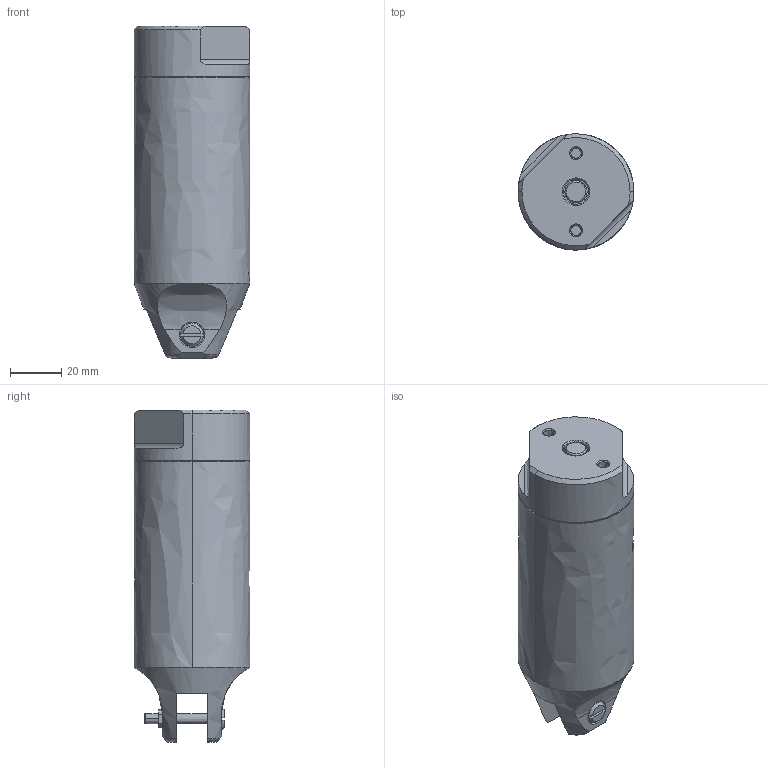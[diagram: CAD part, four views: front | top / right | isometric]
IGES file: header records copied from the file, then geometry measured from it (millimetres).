
Start section:  PTC IGES file: 060084_gt-nr20.igs
Global section: file name: 060084_gt-nr20.igs; native system: Pro/ENGINEER by Parametric Technology Corporation; preprocessor: 2004090; author: KAIHATSU01; organization: Unknown; date: 061017.102020; units: millimetre
Bounding box: 45 x 45 x 129 mm (x, y, z)
Volume: 173697.4 mm3; surface area: 21492.2 mm2
Topology: 1 solids, 1 shells, 104 faces, 250 edges, 160 vertices
Faces by surface type: bspline 104
